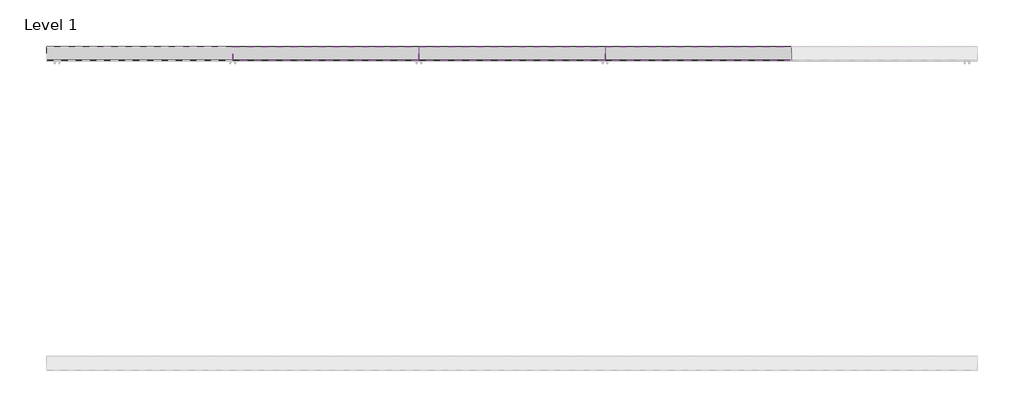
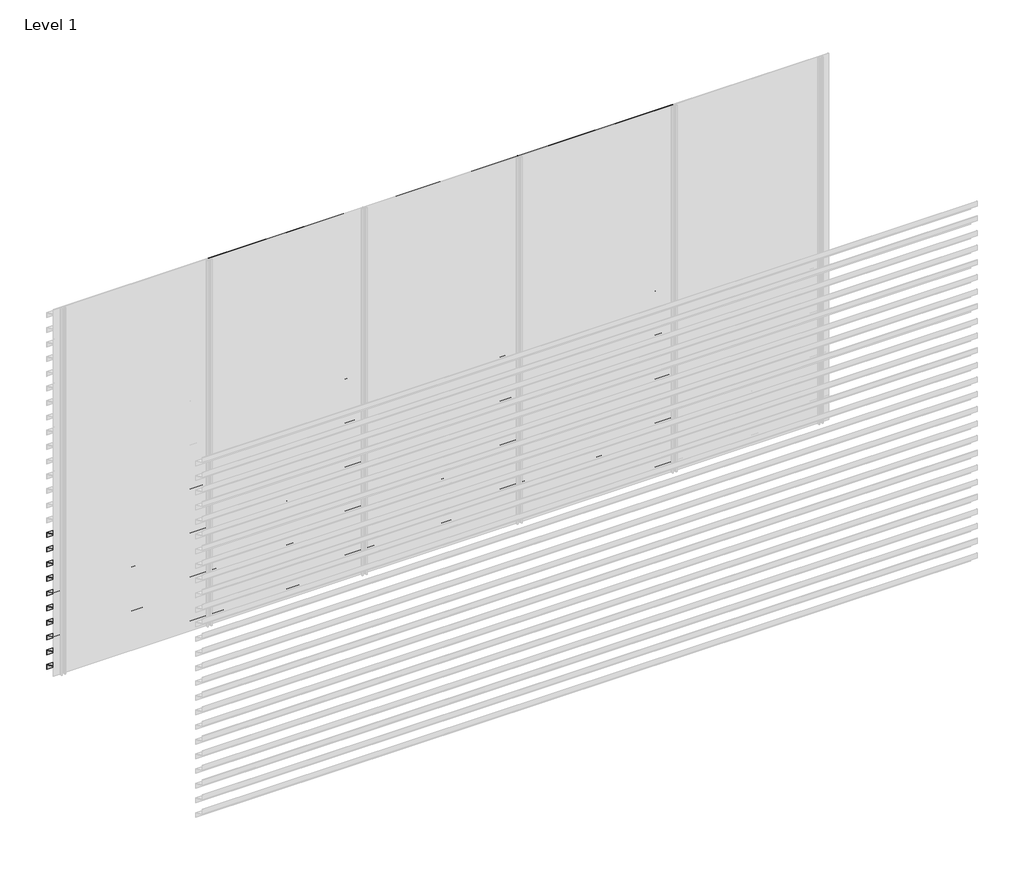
# One storey, part 39 of 46: 85 proxies.
"""IFC4 building model written with IfcOpenShell, lengths in millimetres."""

import ifcopenshell
import ifcopenshell.guid

model = None  # the IFC model being written
_history = None  # IfcOwnerHistory: only IFC2X3 demands one
_inside = {}  # id of a spatial element -> (the spatial element, [elements in it])
_under = {}  # id of a project, library or spatial element -> (it, [spatial elements below it])
_declared = {}  # id of a project -> (the project, [libraries it declares])
_typed = {}  # id of a type object -> (the type object, [elements of that type])
_made_of = {}  # id of a material, layer set ... -> (it, [elements and type objects made of it])


def new_model(schema):
    """Start an empty IFC model of exactly this schema.

    Asked for "IFC4X3", IfcOpenShell would pick the latest addendum, in which some entities
    have other attributes; the version numbers below select the first issue.
    IFC2X3 requires an IfcOwnerHistory on every rooted entity: one is made here for all.
    """
    global model, _history
    if schema == "IFC4X3":
        model = ifcopenshell.file(schema_version=(4, 3, 0, 0))
    else:
        model = ifcopenshell.file(schema=schema)
    _inside.clear()
    _under.clear()
    _declared.clear()
    _typed.clear()
    _made_of.clear()
    _history = None
    if model.schema == "IFC2X3":
        org = make("IfcOrganization", Name="unknown")
        user = make(
            "IfcPersonAndOrganization",
            ThePerson=make("IfcPerson", FamilyName="unknown"),
            TheOrganization=org,
        )
        app = make(
            "IfcApplication",
            ApplicationDeveloper=org,
            Version="unknown",
            ApplicationFullName="unknown",
            ApplicationIdentifier="unknown",
        )
        _history = make(
            "IfcOwnerHistory",
            OwningUser=user,
            OwningApplication=app,
            ChangeAction="ADDED",
            CreationDate=0,
        )
    return model


def make(cls, **values):
    """One entity of the class cls with the attributes given. An attribute that is None is left unset."""
    return model.create_entity(
        cls, **{name: value for name, value in values.items() if value is not None}
    )


def rooted(cls, **values):
    """An entity with a GlobalId (a new one), such as an element, a storey or a relation."""
    return make(cls, GlobalId=ifcopenshell.guid.new(), OwnerHistory=_history, **values)


def si_unit(unit_type, name, prefix=None):
    """IfcSIUnit, for example si_unit("LENGTHUNIT", "METRE", prefix="MILLI")."""
    return make("IfcSIUnit", UnitType=unit_type, Prefix=prefix, Name=name)


def assignment(units):
    """IfcUnitAssignment: the units of a project."""
    return None if units is None else make("IfcUnitAssignment", Units=units)


def point(xyz):
    """IfcCartesianPoint."""
    return None if xyz is None else make("IfcCartesianPoint", Coordinates=xyz)


def direction(xyz):
    """IfcDirection."""
    return None if xyz is None else make("IfcDirection", DirectionRatios=xyz)


def frame(location, z_axis=None, x_axis=None):
    """IfcAxis2Placement3D, a coordinate frame: its origin and axes. An axis left out is left unset."""
    return make(
        "IfcAxis2Placement3D",
        Location=point(location),
        Axis=direction(z_axis),
        RefDirection=direction(x_axis),
    )


def origin():
    """The frame at (0, 0, 0) with its axes left unset."""
    return frame((0.0, 0.0, 0.0))


def place(relative_to, where):
    """IfcLocalPlacement: puts the frame where relative to a parent placement (None: the world)."""
    return make(
        "IfcLocalPlacement", PlacementRelTo=relative_to, RelativePlacement=where
    )


def context(
    kind, dimensions, precision=None, world=None, true_north=None, identifier=None
):
    """IfcGeometricRepresentationContext, for example the 3D "Model" context."""
    return make(
        "IfcGeometricRepresentationContext",
        ContextIdentifier=identifier,
        ContextType=kind,
        CoordinateSpaceDimension=dimensions,
        Precision=precision,
        WorldCoordinateSystem=world,
        TrueNorth=true_north,
    )


def project(units=None, contexts=None):
    """IfcProject with its units and contexts."""
    return rooted(
        "IfcProject",
        Name="project",
        RepresentationContexts=contexts,
        UnitsInContext=assignment(units),
    )


def spatial(cls, under=None, at=None, **own):
    """A site, building, storey or space (cls), placed at a placement, below another one or the project."""
    s = rooted(cls, ObjectPlacement=at, **own)
    if under is not None:
        _under.setdefault(under.id(), (under, []))[1].append(s)
    return s


def polyline(points):
    """IfcPolyline through the points."""
    return make("IfcPolyline", Points=[point(p) for p in points])


def outline(outer, holes=None, kind="AREA"):
    """IfcArbitraryClosedProfileDef: a profile drawn as a closed curve; with holes, ...WithVoids."""
    if holes is None:
        return make("IfcArbitraryClosedProfileDef", ProfileType=kind, OuterCurve=outer)
    return make(
        "IfcArbitraryProfileDefWithVoids",
        ProfileType=kind,
        OuterCurve=outer,
        InnerCurves=holes,
    )


def extrude(swept, where, along, depth):
    """IfcExtrudedAreaSolid: the profile swept, set in the frame where, extruded along a direction by depth."""
    return make(
        "IfcExtrudedAreaSolid",
        SweptArea=swept,
        Position=where,
        ExtrudedDirection=direction(along),
        Depth=depth,
    )


def shape(context_of_items, identifier, shape_type, items):
    """IfcShapeRepresentation: the items that make up one representation, for example the "Body"."""
    return make(
        "IfcShapeRepresentation",
        ContextOfItems=context_of_items,
        RepresentationIdentifier=identifier,
        RepresentationType=shape_type,
        Items=items,
    )


def made_of(thing, what):
    """Note that an element or type object is made of a material, layer set ...; save() writes the relation."""
    if what is not None:
        _made_of.setdefault(what.id(), (what, []))[1].append(thing)
    return thing


def element(
    cls,
    number,
    at=None,
    inside=None,
    cuts=None,
    type_object=None,
    material=None,
    context=None,
    identifier="Body",
    shape_type=None,
    held_by="IfcProductDefinitionShape",
    body=None,
    shapes=None,
    **own,
):
    """One element of the class cls, such as IfcWall. Its Tag is "e" and its number.

    at: its placement. inside: the storey or other place that contains it. cuts: it is an
    opening in that element (IfcRelVoidsElement). A single representation is given by context,
    identifier, shape_type and body (its items); several are given by shapes. held_by: the class
    of the entity that holds the representations. save() writes the other relations.
    """
    e = rooted(cls, Tag="e%d" % number, ObjectPlacement=at, **own)
    if body is not None:
        shapes = [shape(context, identifier, shape_type, body)]
    if shapes is not None:
        e.Representation = make(held_by, Representations=shapes)
    if inside is not None:
        _inside.setdefault(inside.id(), (inside, []))[1].append(e)
    if cuts is not None:
        rooted(
            "IfcRelVoidsElement", RelatingBuildingElement=cuts, RelatedOpeningElement=e
        )
    if type_object is not None:
        _typed.setdefault(type_object.id(), (type_object, []))[1].append(e)
    return made_of(e, material)


def aggregate(whole, parts):
    """IfcRelAggregates: a whole, such as a stair, and the parts it consists of."""
    return rooted("IfcRelAggregates", RelatingObject=whole, RelatedObjects=parts)


def save(model, path):
    """Write the relations noted so far, then the file.

    IfcRelAggregates (storeys below a building ...), IfcRelContainedInSpatialStructure (elements
    in a storey), IfcRelDefinesByType, IfcRelAssociatesMaterial and IfcRelDeclares: one each for
    every whole, place, type object, material and project.
    """
    for whole, parts in _under.values():
        aggregate(whole, parts)
    for where, things in _inside.values():
        rooted(
            "IfcRelContainedInSpatialStructure",
            RelatedElements=things,
            RelatingStructure=where,
        )
    for kind, things in _typed.values():
        rooted("IfcRelDefinesByType", RelatedObjects=things, RelatingType=kind)
    for what, things in _made_of.values():
        rooted("IfcRelAssociatesMaterial", RelatedObjects=things, RelatingMaterial=what)
    for by, libraries in _declared.values():
        rooted("IfcRelDeclares", RelatingContext=by, RelatedDefinitions=libraries)
    model.write(path)


model = new_model("IFC4")

# Units and contexts
model_context = context("Model", 3, world=origin())
ifc_project = project(units=[si_unit("LENGTHUNIT", "METRE", prefix="MILLI")], contexts=[model_context])

# Site, building, storey
site = spatial("IfcSite", under=ifc_project)
building = spatial("IfcBuilding", under=site)
storey = spatial("IfcBuildingStorey", under=building, Name="Level 1", Elevation=0.0)

# Proxies
placement = place(None, origin())
element("IfcBuildingElementProxy", 1, Name="Wall Sweeps", at=placement, inside=storey, context=model_context, shape_type="SweptSolid", body=[
    extrude(outline(polyline([(66573.0540136, 1120.0), (66573.0540136, 1080.0), (66571.0540136, 1081.349017), (66571.0540136, 1118.7258595), (66483.0540136, 1159.7609334), (66483.0540136, 1200.0), (66485.0540136, 1200.0), (66485.0540136, 1161.0350739), (66573.0540136, 1120.0)])), frame((466.6208097, 0.0, 0.0), z_axis=(1.0, 0.0, 0.0), x_axis=(0.0, 1.0, 0.0)), (0.0, 0.0, 1.0), 1200.0000002),
])
element("IfcBuildingElementProxy", 2, Name="Wall Sweeps", at=placement, inside=storey, context=model_context, shape_type="SweptSolid", body=[
    extrude(outline(polyline([(66573.0540136, 1000.0), (66573.0540136, 960.0), (66571.0540136, 961.349017), (66571.0540136, 998.7258595), (66483.0540136, 1039.7609334), (66483.0540136, 1080.0), (66485.0540136, 1080.0), (66485.0540136, 1041.0350739), (66573.0540136, 1000.0)])), frame((466.6208097, 0.0, 0.0), z_axis=(1.0, 0.0, 0.0), x_axis=(0.0, 1.0, 0.0)), (0.0, 0.0, 1.0), 1200.0000002),
])
element("IfcBuildingElementProxy", 3, Name="Wall Sweeps", at=placement, inside=storey, context=model_context, shape_type="SweptSolid", body=[
    extrude(outline(polyline([(66573.0540136, 880.0), (66573.0540136, 840.0), (66571.0540136, 841.349017), (66571.0540136, 878.7258595), (66483.0540136, 919.7609334), (66483.0540136, 960.0), (66485.0540136, 960.0), (66485.0540136, 921.0350739), (66573.0540136, 880.0)])), frame((466.6208097, 0.0, 0.0), z_axis=(1.0, 0.0, 0.0), x_axis=(0.0, 1.0, 0.0)), (0.0, 0.0, 1.0), 1200.0000002),
])
element("IfcBuildingElementProxy", 4, Name="Wall Sweeps", at=placement, inside=storey, context=model_context, shape_type="SweptSolid", body=[
    extrude(outline(polyline([(66573.0540136, 760.0), (66573.0540136, 720.0), (66571.0540136, 721.349017), (66571.0540136, 758.7258595), (66483.0540136, 799.7609334), (66483.0540136, 840.0), (66485.0540136, 840.0), (66485.0540136, 801.0350739), (66573.0540136, 760.0)])), frame((466.6208097, 0.0, 0.0), z_axis=(1.0, 0.0, 0.0), x_axis=(0.0, 1.0, 0.0)), (0.0, 0.0, 1.0), 1200.0000002),
])
element("IfcBuildingElementProxy", 5, Name="Wall Sweeps", at=placement, inside=storey, context=model_context, shape_type="SweptSolid", body=[
    extrude(outline(polyline([(66573.0540136, 640.0), (66573.0540136, 600.0), (66571.0540136, 601.349017), (66571.0540136, 638.7258595), (66483.0540136, 679.7609334), (66483.0540136, 720.0), (66485.0540136, 720.0), (66485.0540136, 681.0350739), (66573.0540136, 640.0)])), frame((466.6208097, 0.0, 0.0), z_axis=(1.0, 0.0, 0.0), x_axis=(0.0, 1.0, 0.0)), (0.0, 0.0, 1.0), 1200.0000002),
])
element("IfcBuildingElementProxy", 6, Name="Wall Sweeps", at=placement, inside=storey, context=model_context, shape_type="SweptSolid", body=[
    extrude(outline(polyline([(66573.0540136, 520.0), (66573.0540136, 480.0), (66571.0540136, 481.349017), (66571.0540136, 518.7258595), (66483.0540136, 559.7609334), (66483.0540136, 600.0), (66485.0540136, 600.0), (66485.0540136, 561.0350739), (66573.0540136, 520.0)])), frame((466.6208097, 0.0, 0.0), z_axis=(1.0, 0.0, 0.0), x_axis=(0.0, 1.0, 0.0)), (0.0, 0.0, 1.0), 1200.0000002),
])
element("IfcBuildingElementProxy", 7, Name="Wall Sweeps", at=placement, inside=storey, context=model_context, shape_type="SweptSolid", body=[
    extrude(outline(polyline([(66573.0540136, 400.0), (66573.0540136, 360.0), (66571.0540136, 361.349017), (66571.0540136, 398.7258595), (66483.0540136, 439.7609334), (66483.0540136, 480.0), (66485.0540136, 480.0), (66485.0540136, 441.0350739), (66573.0540136, 400.0)])), frame((466.6208097, 0.0, 0.0), z_axis=(1.0, 0.0, 0.0), x_axis=(0.0, 1.0, 0.0)), (0.0, 0.0, 1.0), 1200.0000002),
])
element("IfcBuildingElementProxy", 8, Name="Wall Sweeps", at=placement, inside=storey, context=model_context, shape_type="SweptSolid", body=[
    extrude(outline(polyline([(66573.0540136, 280.0), (66573.0540136, 240.0), (66571.0540136, 241.349017), (66571.0540136, 278.7258595), (66483.0540136, 319.7609334), (66483.0540136, 360.0), (66485.0540136, 360.0), (66485.0540136, 321.0350739), (66573.0540136, 280.0)])), frame((466.6208097, 0.0, 0.0), z_axis=(1.0, 0.0, 0.0), x_axis=(0.0, 1.0, 0.0)), (0.0, 0.0, 1.0), 1200.0000002),
])
element("IfcBuildingElementProxy", 9, Name="Wall Sweeps", at=placement, inside=storey, context=model_context, shape_type="SweptSolid", body=[
    extrude(outline(polyline([(66573.0540136, 160.0), (66573.0540136, 120.0), (66571.0540136, 121.349017), (66571.0540136, 158.7258595), (66483.0540136, 199.7609334), (66483.0540136, 240.0), (66485.0540136, 240.0), (66485.0540136, 201.0350739), (66573.0540136, 160.0)])), frame((466.6208097, 0.0, 0.0), z_axis=(1.0, 0.0, 0.0), x_axis=(0.0, 1.0, 0.0)), (0.0, 0.0, 1.0), 1200.0000002),
])
element("IfcBuildingElementProxy", 10, Name="Wall Sweeps", at=placement, inside=storey, context=model_context, shape_type="SweptSolid", body=[
    extrude(outline(polyline([(66573.0540136, 40.0), (66573.0540136, 0.0), (66571.0540136, 1.349017), (66571.0540136, 38.7258595), (66483.0540136, 79.7609334), (66483.0540136, 120.0), (66485.0540136, 120.0), (66485.0540136, 81.0350739), (66573.0540136, 40.0)])), frame((466.6208097, 0.0, 0.0), z_axis=(1.0, 0.0, 0.0), x_axis=(0.0, 1.0, 0.0)), (0.0, 0.0, 1.0), 1200.0000002),
])
element("IfcBuildingElementProxy", 11, Name="Wall Sweeps", at=placement, inside=storey, context=model_context, shape_type="SweptSolid", body=[
    extrude(outline(polyline([(66573.0540136, 2920.0), (66573.0540136, 2880.0), (66571.0540136, 2881.349017), (66571.0540136, 2918.7258595), (66483.0540136, 2959.7609334), (66483.0540136, 3000.0), (66485.0540136, 3000.0), (66485.0540136, 2961.0350739), (66573.0540136, 2920.0)])), frame((1666.6208099, 0.0, 0.0), z_axis=(1.0, 0.0, 0.0), x_axis=(0.0, 1.0, 0.0)), (0.0, 0.0, 1.0), 1199.9999999),
])
element("IfcBuildingElementProxy", 12, Name="Wall Sweeps", at=placement, inside=storey, context=model_context, shape_type="SweptSolid", body=[
    extrude(outline(polyline([(66573.0540136, 2800.0), (66573.0540136, 2760.0), (66571.0540136, 2761.349017), (66571.0540136, 2798.7258595), (66483.0540136, 2839.7609334), (66483.0540136, 2880.0), (66485.0540136, 2880.0), (66485.0540136, 2841.0350739), (66573.0540136, 2800.0)])), frame((1666.6208099, 0.0, 0.0), z_axis=(1.0, 0.0, 0.0), x_axis=(0.0, 1.0, 0.0)), (0.0, 0.0, 1.0), 1199.9999999),
])
element("IfcBuildingElementProxy", 13, Name="Wall Sweeps", at=placement, inside=storey, context=model_context, shape_type="SweptSolid", body=[
    extrude(outline(polyline([(66573.0540136, 2680.0), (66573.0540136, 2640.0), (66571.0540136, 2641.349017), (66571.0540136, 2678.7258595), (66483.0540136, 2719.7609334), (66483.0540136, 2760.0), (66485.0540136, 2760.0), (66485.0540136, 2721.0350739), (66573.0540136, 2680.0)])), frame((1666.6208099, 0.0, 0.0), z_axis=(1.0, 0.0, 0.0), x_axis=(0.0, 1.0, 0.0)), (0.0, 0.0, 1.0), 1199.9999999),
])
element("IfcBuildingElementProxy", 14, Name="Wall Sweeps", at=placement, inside=storey, context=model_context, shape_type="SweptSolid", body=[
    extrude(outline(polyline([(66573.0540136, 2560.0), (66573.0540136, 2520.0), (66571.0540136, 2521.349017), (66571.0540136, 2558.7258595), (66483.0540136, 2599.7609334), (66483.0540136, 2640.0), (66485.0540136, 2640.0), (66485.0540136, 2601.0350739), (66573.0540136, 2560.0)])), frame((1666.6208099, 0.0, 0.0), z_axis=(1.0, 0.0, 0.0), x_axis=(0.0, 1.0, 0.0)), (0.0, 0.0, 1.0), 1199.9999999),
])
element("IfcBuildingElementProxy", 15, Name="Wall Sweeps", at=placement, inside=storey, context=model_context, shape_type="SweptSolid", body=[
    extrude(outline(polyline([(66573.0540136, 2440.0), (66573.0540136, 2400.0), (66571.0540136, 2401.349017), (66571.0540136, 2438.7258595), (66483.0540136, 2479.7609334), (66483.0540136, 2520.0), (66485.0540136, 2520.0), (66485.0540136, 2481.0350739), (66573.0540136, 2440.0)])), frame((1666.6208099, 0.0, 0.0), z_axis=(1.0, 0.0, 0.0), x_axis=(0.0, 1.0, 0.0)), (0.0, 0.0, 1.0), 1199.9999999),
])
element("IfcBuildingElementProxy", 16, Name="Wall Sweeps", at=placement, inside=storey, context=model_context, shape_type="SweptSolid", body=[
    extrude(outline(polyline([(66573.0540136, 2320.0), (66573.0540136, 2280.0), (66571.0540136, 2281.349017), (66571.0540136, 2318.7258595), (66483.0540136, 2359.7609334), (66483.0540136, 2400.0), (66485.0540136, 2400.0), (66485.0540136, 2361.0350739), (66573.0540136, 2320.0)])), frame((1666.6208099, 0.0, 0.0), z_axis=(1.0, 0.0, 0.0), x_axis=(0.0, 1.0, 0.0)), (0.0, 0.0, 1.0), 1199.9999999),
])
element("IfcBuildingElementProxy", 17, Name="Wall Sweeps", at=placement, inside=storey, context=model_context, shape_type="SweptSolid", body=[
    extrude(outline(polyline([(66573.0540136, 2200.0), (66573.0540136, 2160.0), (66571.0540136, 2161.349017), (66571.0540136, 2198.7258595), (66483.0540136, 2239.7609334), (66483.0540136, 2280.0), (66485.0540136, 2280.0), (66485.0540136, 2241.0350739), (66573.0540136, 2200.0)])), frame((1666.6208099, 0.0, 0.0), z_axis=(1.0, 0.0, 0.0), x_axis=(0.0, 1.0, 0.0)), (0.0, 0.0, 1.0), 1199.9999999),
])
element("IfcBuildingElementProxy", 18, Name="Wall Sweeps", at=placement, inside=storey, context=model_context, shape_type="SweptSolid", body=[
    extrude(outline(polyline([(66573.0540136, 2080.0), (66573.0540136, 2040.0), (66571.0540136, 2041.349017), (66571.0540136, 2078.7258595), (66483.0540136, 2119.7609334), (66483.0540136, 2160.0), (66485.0540136, 2160.0), (66485.0540136, 2121.0350739), (66573.0540136, 2080.0)])), frame((1666.6208099, 0.0, 0.0), z_axis=(1.0, 0.0, 0.0), x_axis=(0.0, 1.0, 0.0)), (0.0, 0.0, 1.0), 1199.9999999),
])
element("IfcBuildingElementProxy", 19, Name="Wall Sweeps", at=placement, inside=storey, context=model_context, shape_type="SweptSolid", body=[
    extrude(outline(polyline([(66573.0540136, 1960.0), (66573.0540136, 1920.0), (66571.0540136, 1921.349017), (66571.0540136, 1958.7258595), (66483.0540136, 1999.7609334), (66483.0540136, 2040.0), (66485.0540136, 2040.0), (66485.0540136, 2001.0350739), (66573.0540136, 1960.0)])), frame((1666.6208099, 0.0, 0.0), z_axis=(1.0, 0.0, 0.0), x_axis=(0.0, 1.0, 0.0)), (0.0, 0.0, 1.0), 1199.9999999),
])
element("IfcBuildingElementProxy", 20, Name="Wall Sweeps", at=placement, inside=storey, context=model_context, shape_type="SweptSolid", body=[
    extrude(outline(polyline([(66573.0540136, 1840.0), (66573.0540136, 1800.0), (66571.0540136, 1801.349017), (66571.0540136, 1838.7258595), (66483.0540136, 1879.7609334), (66483.0540136, 1920.0), (66485.0540136, 1920.0), (66485.0540136, 1881.0350739), (66573.0540136, 1840.0)])), frame((1666.6208099, 0.0, 0.0), z_axis=(1.0, 0.0, 0.0), x_axis=(0.0, 1.0, 0.0)), (0.0, 0.0, 1.0), 1199.9999999),
])
element("IfcBuildingElementProxy", 21, Name="Wall Sweeps", at=placement, inside=storey, context=model_context, shape_type="SweptSolid", body=[
    extrude(outline(polyline([(66573.0540136, 1720.0), (66573.0540136, 1680.0), (66571.0540136, 1681.349017), (66571.0540136, 1718.7258595), (66483.0540136, 1759.7609334), (66483.0540136, 1800.0), (66485.0540136, 1800.0), (66485.0540136, 1761.0350739), (66573.0540136, 1720.0)])), frame((1666.6208099, 0.0, 0.0), z_axis=(1.0, 0.0, 0.0), x_axis=(0.0, 1.0, 0.0)), (0.0, 0.0, 1.0), 1199.9999999),
])
element("IfcBuildingElementProxy", 22, Name="Wall Sweeps", at=placement, inside=storey, context=model_context, shape_type="SweptSolid", body=[
    extrude(outline(polyline([(66573.0540136, 1600.0), (66573.0540136, 1560.0), (66571.0540136, 1561.349017), (66571.0540136, 1598.7258595), (66483.0540136, 1639.7609334), (66483.0540136, 1680.0), (66485.0540136, 1680.0), (66485.0540136, 1641.0350739), (66573.0540136, 1600.0)])), frame((1666.6208099, 0.0, 0.0), z_axis=(1.0, 0.0, 0.0), x_axis=(0.0, 1.0, 0.0)), (0.0, 0.0, 1.0), 1199.9999999),
])
element("IfcBuildingElementProxy", 23, Name="Wall Sweeps", at=placement, inside=storey, context=model_context, shape_type="SweptSolid", body=[
    extrude(outline(polyline([(66573.0540136, 1480.0), (66573.0540136, 1440.0), (66571.0540136, 1441.349017), (66571.0540136, 1478.7258595), (66483.0540136, 1519.7609334), (66483.0540136, 1560.0), (66485.0540136, 1560.0), (66485.0540136, 1521.0350739), (66573.0540136, 1480.0)])), frame((1666.6208099, 0.0, 0.0), z_axis=(1.0, 0.0, 0.0), x_axis=(0.0, 1.0, 0.0)), (0.0, 0.0, 1.0), 1199.9999999),
])
element("IfcBuildingElementProxy", 24, Name="Wall Sweeps", at=placement, inside=storey, context=model_context, shape_type="SweptSolid", body=[
    extrude(outline(polyline([(66573.0540136, 1360.0), (66573.0540136, 1320.0), (66571.0540136, 1321.349017), (66571.0540136, 1358.7258595), (66483.0540136, 1399.7609334), (66483.0540136, 1440.0), (66485.0540136, 1440.0), (66485.0540136, 1401.0350739), (66573.0540136, 1360.0)])), frame((1666.6208099, 0.0, 0.0), z_axis=(1.0, 0.0, 0.0), x_axis=(0.0, 1.0, 0.0)), (0.0, 0.0, 1.0), 1199.9999999),
])
element("IfcBuildingElementProxy", 25, Name="Wall Sweeps", at=placement, inside=storey, context=model_context, shape_type="SweptSolid", body=[
    extrude(outline(polyline([(66573.0540136, 1240.0), (66573.0540136, 1200.0), (66571.0540136, 1201.349017), (66571.0540136, 1238.7258595), (66483.0540136, 1279.7609334), (66483.0540136, 1320.0), (66485.0540136, 1320.0), (66485.0540136, 1281.0350739), (66573.0540136, 1240.0)])), frame((1666.6208099, 0.0, 0.0), z_axis=(1.0, 0.0, 0.0), x_axis=(0.0, 1.0, 0.0)), (0.0, 0.0, 1.0), 1199.9999999),
])
element("IfcBuildingElementProxy", 26, Name="Wall Sweeps", at=placement, inside=storey, context=model_context, shape_type="SweptSolid", body=[
    extrude(outline(polyline([(66573.0540136, 1120.0), (66573.0540136, 1080.0), (66571.0540136, 1081.349017), (66571.0540136, 1118.7258595), (66483.0540136, 1159.7609334), (66483.0540136, 1200.0), (66485.0540136, 1200.0), (66485.0540136, 1161.0350739), (66573.0540136, 1120.0)])), frame((1666.6208099, 0.0, 0.0), z_axis=(1.0, 0.0, 0.0), x_axis=(0.0, 1.0, 0.0)), (0.0, 0.0, 1.0), 1199.9999999),
])
element("IfcBuildingElementProxy", 27, Name="Wall Sweeps", at=placement, inside=storey, context=model_context, shape_type="SweptSolid", body=[
    extrude(outline(polyline([(66573.0540136, 1000.0), (66573.0540136, 960.0), (66571.0540136, 961.349017), (66571.0540136, 998.7258595), (66483.0540136, 1039.7609334), (66483.0540136, 1080.0), (66485.0540136, 1080.0), (66485.0540136, 1041.0350739), (66573.0540136, 1000.0)])), frame((1666.6208099, 0.0, 0.0), z_axis=(1.0, 0.0, 0.0), x_axis=(0.0, 1.0, 0.0)), (0.0, 0.0, 1.0), 1199.9999999),
])
element("IfcBuildingElementProxy", 28, Name="Wall Sweeps", at=placement, inside=storey, context=model_context, shape_type="SweptSolid", body=[
    extrude(outline(polyline([(66573.0540136, 880.0), (66573.0540136, 840.0), (66571.0540136, 841.349017), (66571.0540136, 878.7258595), (66483.0540136, 919.7609334), (66483.0540136, 960.0), (66485.0540136, 960.0), (66485.0540136, 921.0350739), (66573.0540136, 880.0)])), frame((1666.6208099, 0.0, 0.0), z_axis=(1.0, 0.0, 0.0), x_axis=(0.0, 1.0, 0.0)), (0.0, 0.0, 1.0), 1199.9999999),
])
element("IfcBuildingElementProxy", 29, Name="Wall Sweeps", at=placement, inside=storey, context=model_context, shape_type="SweptSolid", body=[
    extrude(outline(polyline([(66573.0540136, 760.0), (66573.0540136, 720.0), (66571.0540136, 721.349017), (66571.0540136, 758.7258595), (66483.0540136, 799.7609334), (66483.0540136, 840.0), (66485.0540136, 840.0), (66485.0540136, 801.0350739), (66573.0540136, 760.0)])), frame((1666.6208099, 0.0, 0.0), z_axis=(1.0, 0.0, 0.0), x_axis=(0.0, 1.0, 0.0)), (0.0, 0.0, 1.0), 1199.9999999),
])
element("IfcBuildingElementProxy", 30, Name="Wall Sweeps", at=placement, inside=storey, context=model_context, shape_type="SweptSolid", body=[
    extrude(outline(polyline([(66573.0540136, 640.0), (66573.0540136, 600.0), (66571.0540136, 601.349017), (66571.0540136, 638.7258595), (66483.0540136, 679.7609334), (66483.0540136, 720.0), (66485.0540136, 720.0), (66485.0540136, 681.0350739), (66573.0540136, 640.0)])), frame((1666.6208099, 0.0, 0.0), z_axis=(1.0, 0.0, 0.0), x_axis=(0.0, 1.0, 0.0)), (0.0, 0.0, 1.0), 1199.9999999),
])
element("IfcBuildingElementProxy", 31, Name="Wall Sweeps", at=placement, inside=storey, context=model_context, shape_type="SweptSolid", body=[
    extrude(outline(polyline([(66573.0540136, 520.0), (66573.0540136, 480.0), (66571.0540136, 481.349017), (66571.0540136, 518.7258595), (66483.0540136, 559.7609334), (66483.0540136, 600.0), (66485.0540136, 600.0), (66485.0540136, 561.0350739), (66573.0540136, 520.0)])), frame((1666.6208099, 0.0, 0.0), z_axis=(1.0, 0.0, 0.0), x_axis=(0.0, 1.0, 0.0)), (0.0, 0.0, 1.0), 1199.9999999),
])
element("IfcBuildingElementProxy", 32, Name="Wall Sweeps", at=placement, inside=storey, context=model_context, shape_type="SweptSolid", body=[
    extrude(outline(polyline([(66573.0540136, 400.0), (66573.0540136, 360.0), (66571.0540136, 361.349017), (66571.0540136, 398.7258595), (66483.0540136, 439.7609334), (66483.0540136, 480.0), (66485.0540136, 480.0), (66485.0540136, 441.0350739), (66573.0540136, 400.0)])), frame((1666.6208099, 0.0, 0.0), z_axis=(1.0, 0.0, 0.0), x_axis=(0.0, 1.0, 0.0)), (0.0, 0.0, 1.0), 1199.9999999),
])
element("IfcBuildingElementProxy", 33, Name="Wall Sweeps", at=placement, inside=storey, context=model_context, shape_type="SweptSolid", body=[
    extrude(outline(polyline([(66573.0540136, 280.0), (66573.0540136, 240.0), (66571.0540136, 241.349017), (66571.0540136, 278.7258595), (66483.0540136, 319.7609334), (66483.0540136, 360.0), (66485.0540136, 360.0), (66485.0540136, 321.0350739), (66573.0540136, 280.0)])), frame((1666.6208099, 0.0, 0.0), z_axis=(1.0, 0.0, 0.0), x_axis=(0.0, 1.0, 0.0)), (0.0, 0.0, 1.0), 1199.9999999),
])
element("IfcBuildingElementProxy", 34, Name="Wall Sweeps", at=placement, inside=storey, context=model_context, shape_type="SweptSolid", body=[
    extrude(outline(polyline([(66573.0540136, 160.0), (66573.0540136, 120.0), (66571.0540136, 121.349017), (66571.0540136, 158.7258595), (66483.0540136, 199.7609334), (66483.0540136, 240.0), (66485.0540136, 240.0), (66485.0540136, 201.0350739), (66573.0540136, 160.0)])), frame((1666.6208099, 0.0, 0.0), z_axis=(1.0, 0.0, 0.0), x_axis=(0.0, 1.0, 0.0)), (0.0, 0.0, 1.0), 1199.9999999),
])
element("IfcBuildingElementProxy", 35, Name="Wall Sweeps", at=placement, inside=storey, context=model_context, shape_type="SweptSolid", body=[
    extrude(outline(polyline([(66573.0540136, 40.0), (66573.0540136, 0.0), (66571.0540136, 1.349017), (66571.0540136, 38.7258595), (66483.0540136, 79.7609334), (66483.0540136, 120.0), (66485.0540136, 120.0), (66485.0540136, 81.0350739), (66573.0540136, 40.0)])), frame((1666.6208099, 0.0, 0.0), z_axis=(1.0, 0.0, 0.0), x_axis=(0.0, 1.0, 0.0)), (0.0, 0.0, 1.0), 1199.9999999),
])
element("IfcBuildingElementProxy", 36, Name="Wall Sweeps", at=placement, inside=storey, context=model_context, shape_type="SweptSolid", body=[
    extrude(outline(polyline([(66573.0540136, 2920.0), (66573.0540136, 2880.0), (66571.0540136, 2881.349017), (66571.0540136, 2918.7258595), (66483.0540136, 2959.7609334), (66483.0540136, 3000.0), (66485.0540136, 3000.0), (66485.0540136, 2961.0350739), (66573.0540136, 2920.0)])), frame((2866.6208097, 0.0, 0.0), z_axis=(1.0, 0.0, 0.0), x_axis=(0.0, 1.0, 0.0)), (0.0, 0.0, 1.0), 1199.9999999),
])
element("IfcBuildingElementProxy", 37, Name="Wall Sweeps", at=placement, inside=storey, context=model_context, shape_type="SweptSolid", body=[
    extrude(outline(polyline([(66573.0540136, 2800.0), (66573.0540136, 2760.0), (66571.0540136, 2761.349017), (66571.0540136, 2798.7258595), (66483.0540136, 2839.7609334), (66483.0540136, 2880.0), (66485.0540136, 2880.0), (66485.0540136, 2841.0350739), (66573.0540136, 2800.0)])), frame((2866.6208097, 0.0, 0.0), z_axis=(1.0, 0.0, 0.0), x_axis=(0.0, 1.0, 0.0)), (0.0, 0.0, 1.0), 1199.9999999),
])
element("IfcBuildingElementProxy", 38, Name="Wall Sweeps", at=placement, inside=storey, context=model_context, shape_type="SweptSolid", body=[
    extrude(outline(polyline([(66573.0540136, 2680.0), (66573.0540136, 2640.0), (66571.0540136, 2641.349017), (66571.0540136, 2678.7258595), (66483.0540136, 2719.7609334), (66483.0540136, 2760.0), (66485.0540136, 2760.0), (66485.0540136, 2721.0350739), (66573.0540136, 2680.0)])), frame((2866.6208097, 0.0, 0.0), z_axis=(1.0, 0.0, 0.0), x_axis=(0.0, 1.0, 0.0)), (0.0, 0.0, 1.0), 1199.9999999),
])
element("IfcBuildingElementProxy", 39, Name="Wall Sweeps", at=placement, inside=storey, context=model_context, shape_type="SweptSolid", body=[
    extrude(outline(polyline([(66573.0540136, 2560.0), (66573.0540136, 2520.0), (66571.0540136, 2521.349017), (66571.0540136, 2558.7258595), (66483.0540136, 2599.7609334), (66483.0540136, 2640.0), (66485.0540136, 2640.0), (66485.0540136, 2601.0350739), (66573.0540136, 2560.0)])), frame((2866.6208097, 0.0, 0.0), z_axis=(1.0, 0.0, 0.0), x_axis=(0.0, 1.0, 0.0)), (0.0, 0.0, 1.0), 1199.9999999),
])
element("IfcBuildingElementProxy", 40, Name="Wall Sweeps", at=placement, inside=storey, context=model_context, shape_type="SweptSolid", body=[
    extrude(outline(polyline([(66573.0540136, 2440.0), (66573.0540136, 2400.0), (66571.0540136, 2401.349017), (66571.0540136, 2438.7258595), (66483.0540136, 2479.7609334), (66483.0540136, 2520.0), (66485.0540136, 2520.0), (66485.0540136, 2481.0350739), (66573.0540136, 2440.0)])), frame((2866.6208097, 0.0, 0.0), z_axis=(1.0, 0.0, 0.0), x_axis=(0.0, 1.0, 0.0)), (0.0, 0.0, 1.0), 1199.9999999),
])
element("IfcBuildingElementProxy", 41, Name="Wall Sweeps", at=placement, inside=storey, context=model_context, shape_type="SweptSolid", body=[
    extrude(outline(polyline([(66573.0540136, 2320.0), (66573.0540136, 2280.0), (66571.0540136, 2281.349017), (66571.0540136, 2318.7258595), (66483.0540136, 2359.7609334), (66483.0540136, 2400.0), (66485.0540136, 2400.0), (66485.0540136, 2361.0350739), (66573.0540136, 2320.0)])), frame((2866.6208097, 0.0, 0.0), z_axis=(1.0, 0.0, 0.0), x_axis=(0.0, 1.0, 0.0)), (0.0, 0.0, 1.0), 1199.9999999),
])
element("IfcBuildingElementProxy", 42, Name="Wall Sweeps", at=placement, inside=storey, context=model_context, shape_type="SweptSolid", body=[
    extrude(outline(polyline([(66573.0540136, 2200.0), (66573.0540136, 2160.0), (66571.0540136, 2161.349017), (66571.0540136, 2198.7258595), (66483.0540136, 2239.7609334), (66483.0540136, 2280.0), (66485.0540136, 2280.0), (66485.0540136, 2241.0350739), (66573.0540136, 2200.0)])), frame((2866.6208097, 0.0, 0.0), z_axis=(1.0, 0.0, 0.0), x_axis=(0.0, 1.0, 0.0)), (0.0, 0.0, 1.0), 1199.9999999),
])
element("IfcBuildingElementProxy", 43, Name="Wall Sweeps", at=placement, inside=storey, context=model_context, shape_type="SweptSolid", body=[
    extrude(outline(polyline([(66573.0540136, 2080.0), (66573.0540136, 2040.0), (66571.0540136, 2041.349017), (66571.0540136, 2078.7258595), (66483.0540136, 2119.7609334), (66483.0540136, 2160.0), (66485.0540136, 2160.0), (66485.0540136, 2121.0350739), (66573.0540136, 2080.0)])), frame((2866.6208097, 0.0, 0.0), z_axis=(1.0, 0.0, 0.0), x_axis=(0.0, 1.0, 0.0)), (0.0, 0.0, 1.0), 1199.9999999),
])
element("IfcBuildingElementProxy", 44, Name="Wall Sweeps", at=placement, inside=storey, context=model_context, shape_type="SweptSolid", body=[
    extrude(outline(polyline([(66573.0540136, 1960.0), (66573.0540136, 1920.0), (66571.0540136, 1921.349017), (66571.0540136, 1958.7258595), (66483.0540136, 1999.7609334), (66483.0540136, 2040.0), (66485.0540136, 2040.0), (66485.0540136, 2001.0350739), (66573.0540136, 1960.0)])), frame((2866.6208097, 0.0, 0.0), z_axis=(1.0, 0.0, 0.0), x_axis=(0.0, 1.0, 0.0)), (0.0, 0.0, 1.0), 1199.9999999),
])
element("IfcBuildingElementProxy", 45, Name="Wall Sweeps", at=placement, inside=storey, context=model_context, shape_type="SweptSolid", body=[
    extrude(outline(polyline([(66573.0540136, 1840.0), (66573.0540136, 1800.0), (66571.0540136, 1801.349017), (66571.0540136, 1838.7258595), (66483.0540136, 1879.7609334), (66483.0540136, 1920.0), (66485.0540136, 1920.0), (66485.0540136, 1881.0350739), (66573.0540136, 1840.0)])), frame((2866.6208097, 0.0, 0.0), z_axis=(1.0, 0.0, 0.0), x_axis=(0.0, 1.0, 0.0)), (0.0, 0.0, 1.0), 1199.9999999),
])
element("IfcBuildingElementProxy", 46, Name="Wall Sweeps", at=placement, inside=storey, context=model_context, shape_type="SweptSolid", body=[
    extrude(outline(polyline([(66573.0540136, 1720.0), (66573.0540136, 1680.0), (66571.0540136, 1681.349017), (66571.0540136, 1718.7258595), (66483.0540136, 1759.7609334), (66483.0540136, 1800.0), (66485.0540136, 1800.0), (66485.0540136, 1761.0350739), (66573.0540136, 1720.0)])), frame((2866.6208097, 0.0, 0.0), z_axis=(1.0, 0.0, 0.0), x_axis=(0.0, 1.0, 0.0)), (0.0, 0.0, 1.0), 1199.9999999),
])
element("IfcBuildingElementProxy", 47, Name="Wall Sweeps", at=placement, inside=storey, context=model_context, shape_type="SweptSolid", body=[
    extrude(outline(polyline([(66573.0540136, 1600.0), (66573.0540136, 1560.0), (66571.0540136, 1561.349017), (66571.0540136, 1598.7258595), (66483.0540136, 1639.7609334), (66483.0540136, 1680.0), (66485.0540136, 1680.0), (66485.0540136, 1641.0350739), (66573.0540136, 1600.0)])), frame((2866.6208097, 0.0, 0.0), z_axis=(1.0, 0.0, 0.0), x_axis=(0.0, 1.0, 0.0)), (0.0, 0.0, 1.0), 1199.9999999),
])
element("IfcBuildingElementProxy", 48, Name="Wall Sweeps", at=placement, inside=storey, context=model_context, shape_type="SweptSolid", body=[
    extrude(outline(polyline([(66573.0540136, 1480.0), (66573.0540136, 1440.0), (66571.0540136, 1441.349017), (66571.0540136, 1478.7258595), (66483.0540136, 1519.7609334), (66483.0540136, 1560.0), (66485.0540136, 1560.0), (66485.0540136, 1521.0350739), (66573.0540136, 1480.0)])), frame((2866.6208097, 0.0, 0.0), z_axis=(1.0, 0.0, 0.0), x_axis=(0.0, 1.0, 0.0)), (0.0, 0.0, 1.0), 1199.9999999),
])
element("IfcBuildingElementProxy", 49, Name="Wall Sweeps", at=placement, inside=storey, context=model_context, shape_type="SweptSolid", body=[
    extrude(outline(polyline([(66573.0540136, 1360.0), (66573.0540136, 1320.0), (66571.0540136, 1321.349017), (66571.0540136, 1358.7258595), (66483.0540136, 1399.7609334), (66483.0540136, 1440.0), (66485.0540136, 1440.0), (66485.0540136, 1401.0350739), (66573.0540136, 1360.0)])), frame((2866.6208097, 0.0, 0.0), z_axis=(1.0, 0.0, 0.0), x_axis=(0.0, 1.0, 0.0)), (0.0, 0.0, 1.0), 1199.9999999),
])
element("IfcBuildingElementProxy", 50, Name="Wall Sweeps", at=placement, inside=storey, context=model_context, shape_type="SweptSolid", body=[
    extrude(outline(polyline([(66573.0540136, 1240.0), (66573.0540136, 1200.0), (66571.0540136, 1201.349017), (66571.0540136, 1238.7258595), (66483.0540136, 1279.7609334), (66483.0540136, 1320.0), (66485.0540136, 1320.0), (66485.0540136, 1281.0350739), (66573.0540136, 1240.0)])), frame((2866.6208097, 0.0, 0.0), z_axis=(1.0, 0.0, 0.0), x_axis=(0.0, 1.0, 0.0)), (0.0, 0.0, 1.0), 1199.9999999),
])
element("IfcBuildingElementProxy", 51, Name="Wall Sweeps", at=placement, inside=storey, context=model_context, shape_type="SweptSolid", body=[
    extrude(outline(polyline([(66573.0540136, 1120.0), (66573.0540136, 1080.0), (66571.0540136, 1081.349017), (66571.0540136, 1118.7258595), (66483.0540136, 1159.7609334), (66483.0540136, 1200.0), (66485.0540136, 1200.0), (66485.0540136, 1161.0350739), (66573.0540136, 1120.0)])), frame((2866.6208097, 0.0, 0.0), z_axis=(1.0, 0.0, 0.0), x_axis=(0.0, 1.0, 0.0)), (0.0, 0.0, 1.0), 1199.9999999),
])
element("IfcBuildingElementProxy", 52, Name="Wall Sweeps", at=placement, inside=storey, context=model_context, shape_type="SweptSolid", body=[
    extrude(outline(polyline([(66573.0540136, 1000.0), (66573.0540136, 960.0), (66571.0540136, 961.349017), (66571.0540136, 998.7258595), (66483.0540136, 1039.7609334), (66483.0540136, 1080.0), (66485.0540136, 1080.0), (66485.0540136, 1041.0350739), (66573.0540136, 1000.0)])), frame((2866.6208097, 0.0, 0.0), z_axis=(1.0, 0.0, 0.0), x_axis=(0.0, 1.0, 0.0)), (0.0, 0.0, 1.0), 1199.9999999),
])
element("IfcBuildingElementProxy", 53, Name="Wall Sweeps", at=placement, inside=storey, context=model_context, shape_type="SweptSolid", body=[
    extrude(outline(polyline([(66573.0540136, 880.0), (66573.0540136, 840.0), (66571.0540136, 841.349017), (66571.0540136, 878.7258595), (66483.0540136, 919.7609334), (66483.0540136, 960.0), (66485.0540136, 960.0), (66485.0540136, 921.0350739), (66573.0540136, 880.0)])), frame((2866.6208097, 0.0, 0.0), z_axis=(1.0, 0.0, 0.0), x_axis=(0.0, 1.0, 0.0)), (0.0, 0.0, 1.0), 1199.9999999),
])
element("IfcBuildingElementProxy", 54, Name="Wall Sweeps", at=placement, inside=storey, context=model_context, shape_type="SweptSolid", body=[
    extrude(outline(polyline([(66573.0540136, 760.0), (66573.0540136, 720.0), (66571.0540136, 721.349017), (66571.0540136, 758.7258595), (66483.0540136, 799.7609334), (66483.0540136, 840.0), (66485.0540136, 840.0), (66485.0540136, 801.0350739), (66573.0540136, 760.0)])), frame((2866.6208097, 0.0, 0.0), z_axis=(1.0, 0.0, 0.0), x_axis=(0.0, 1.0, 0.0)), (0.0, 0.0, 1.0), 1199.9999999),
])
element("IfcBuildingElementProxy", 55, Name="Wall Sweeps", at=placement, inside=storey, context=model_context, shape_type="SweptSolid", body=[
    extrude(outline(polyline([(66573.0540136, 640.0), (66573.0540136, 600.0), (66571.0540136, 601.349017), (66571.0540136, 638.7258595), (66483.0540136, 679.7609334), (66483.0540136, 720.0), (66485.0540136, 720.0), (66485.0540136, 681.0350739), (66573.0540136, 640.0)])), frame((2866.6208097, 0.0, 0.0), z_axis=(1.0, 0.0, 0.0), x_axis=(0.0, 1.0, 0.0)), (0.0, 0.0, 1.0), 1199.9999999),
])
element("IfcBuildingElementProxy", 56, Name="Wall Sweeps", at=placement, inside=storey, context=model_context, shape_type="SweptSolid", body=[
    extrude(outline(polyline([(66573.0540136, 520.0), (66573.0540136, 480.0), (66571.0540136, 481.349017), (66571.0540136, 518.7258595), (66483.0540136, 559.7609334), (66483.0540136, 600.0), (66485.0540136, 600.0), (66485.0540136, 561.0350739), (66573.0540136, 520.0)])), frame((2866.6208097, 0.0, 0.0), z_axis=(1.0, 0.0, 0.0), x_axis=(0.0, 1.0, 0.0)), (0.0, 0.0, 1.0), 1199.9999999),
])
element("IfcBuildingElementProxy", 57, Name="Wall Sweeps", at=placement, inside=storey, context=model_context, shape_type="SweptSolid", body=[
    extrude(outline(polyline([(66573.0540136, 400.0), (66573.0540136, 360.0), (66571.0540136, 361.349017), (66571.0540136, 398.7258595), (66483.0540136, 439.7609334), (66483.0540136, 480.0), (66485.0540136, 480.0), (66485.0540136, 441.0350739), (66573.0540136, 400.0)])), frame((2866.6208097, 0.0, 0.0), z_axis=(1.0, 0.0, 0.0), x_axis=(0.0, 1.0, 0.0)), (0.0, 0.0, 1.0), 1199.9999999),
])
element("IfcBuildingElementProxy", 58, Name="Wall Sweeps", at=placement, inside=storey, context=model_context, shape_type="SweptSolid", body=[
    extrude(outline(polyline([(66573.0540136, 280.0), (66573.0540136, 240.0), (66571.0540136, 241.349017), (66571.0540136, 278.7258595), (66483.0540136, 319.7609334), (66483.0540136, 360.0), (66485.0540136, 360.0), (66485.0540136, 321.0350739), (66573.0540136, 280.0)])), frame((2866.6208097, 0.0, 0.0), z_axis=(1.0, 0.0, 0.0), x_axis=(0.0, 1.0, 0.0)), (0.0, 0.0, 1.0), 1199.9999999),
])
element("IfcBuildingElementProxy", 59, Name="Wall Sweeps", at=placement, inside=storey, context=model_context, shape_type="SweptSolid", body=[
    extrude(outline(polyline([(66573.0540136, 160.0), (66573.0540136, 120.0), (66571.0540136, 121.349017), (66571.0540136, 158.7258595), (66483.0540136, 199.7609334), (66483.0540136, 240.0), (66485.0540136, 240.0), (66485.0540136, 201.0350739), (66573.0540136, 160.0)])), frame((2866.6208097, 0.0, 0.0), z_axis=(1.0, 0.0, 0.0), x_axis=(0.0, 1.0, 0.0)), (0.0, 0.0, 1.0), 1199.9999999),
])
element("IfcBuildingElementProxy", 60, Name="Wall Sweeps", at=placement, inside=storey, context=model_context, shape_type="SweptSolid", body=[
    extrude(outline(polyline([(66573.0540136, 40.0), (66573.0540136, 0.0), (66571.0540136, 1.349017), (66571.0540136, 38.7258595), (66483.0540136, 79.7609334), (66483.0540136, 120.0), (66485.0540136, 120.0), (66485.0540136, 81.0350739), (66573.0540136, 40.0)])), frame((2866.6208097, 0.0, 0.0), z_axis=(1.0, 0.0, 0.0), x_axis=(0.0, 1.0, 0.0)), (0.0, 0.0, 1.0), 1199.9999999),
])
element("IfcBuildingElementProxy", 61, Name="Wall Sweeps", at=placement, inside=storey, context=model_context, shape_type="SweptSolid", body=[
    extrude(outline(polyline([(66573.0540136, 2920.0), (66573.0540136, 2880.0), (66571.0540136, 2881.349017), (66571.0540136, 2918.7258595), (66483.0540136, 2959.7609334), (66483.0540136, 3000.0), (66485.0540136, 3000.0), (66485.0540136, 2961.0350739), (66573.0540136, 2920.0)])), frame((4066.6208096, 0.0, 0.0), z_axis=(1.0, 0.0, 0.0), x_axis=(0.0, 1.0, 0.0)), (0.0, 0.0, 1.0), 1199.9999999),
])
element("IfcBuildingElementProxy", 62, Name="Wall Sweeps", at=placement, inside=storey, context=model_context, shape_type="SweptSolid", body=[
    extrude(outline(polyline([(66573.0540136, 2800.0), (66573.0540136, 2760.0), (66571.0540136, 2761.349017), (66571.0540136, 2798.7258595), (66483.0540136, 2839.7609334), (66483.0540136, 2880.0), (66485.0540136, 2880.0), (66485.0540136, 2841.0350739), (66573.0540136, 2800.0)])), frame((4066.6208096, 0.0, 0.0), z_axis=(1.0, 0.0, 0.0), x_axis=(0.0, 1.0, 0.0)), (0.0, 0.0, 1.0), 1199.9999999),
])
element("IfcBuildingElementProxy", 63, Name="Wall Sweeps", at=placement, inside=storey, context=model_context, shape_type="SweptSolid", body=[
    extrude(outline(polyline([(66573.0540136, 2680.0), (66573.0540136, 2640.0), (66571.0540136, 2641.349017), (66571.0540136, 2678.7258595), (66483.0540136, 2719.7609334), (66483.0540136, 2760.0), (66485.0540136, 2760.0), (66485.0540136, 2721.0350739), (66573.0540136, 2680.0)])), frame((4066.6208096, 0.0, 0.0), z_axis=(1.0, 0.0, 0.0), x_axis=(0.0, 1.0, 0.0)), (0.0, 0.0, 1.0), 1199.9999999),
])
element("IfcBuildingElementProxy", 64, Name="Wall Sweeps", at=placement, inside=storey, context=model_context, shape_type="SweptSolid", body=[
    extrude(outline(polyline([(66573.0540136, 2560.0), (66573.0540136, 2520.0), (66571.0540136, 2521.349017), (66571.0540136, 2558.7258595), (66483.0540136, 2599.7609334), (66483.0540136, 2640.0), (66485.0540136, 2640.0), (66485.0540136, 2601.0350739), (66573.0540136, 2560.0)])), frame((4066.6208096, 0.0, 0.0), z_axis=(1.0, 0.0, 0.0), x_axis=(0.0, 1.0, 0.0)), (0.0, 0.0, 1.0), 1199.9999999),
])
element("IfcBuildingElementProxy", 65, Name="Wall Sweeps", at=placement, inside=storey, context=model_context, shape_type="SweptSolid", body=[
    extrude(outline(polyline([(66573.0540136, 2440.0), (66573.0540136, 2400.0), (66571.0540136, 2401.349017), (66571.0540136, 2438.7258595), (66483.0540136, 2479.7609334), (66483.0540136, 2520.0), (66485.0540136, 2520.0), (66485.0540136, 2481.0350739), (66573.0540136, 2440.0)])), frame((4066.6208096, 0.0, 0.0), z_axis=(1.0, 0.0, 0.0), x_axis=(0.0, 1.0, 0.0)), (0.0, 0.0, 1.0), 1199.9999999),
])
element("IfcBuildingElementProxy", 66, Name="Wall Sweeps", at=placement, inside=storey, context=model_context, shape_type="SweptSolid", body=[
    extrude(outline(polyline([(66573.0540136, 2320.0), (66573.0540136, 2280.0), (66571.0540136, 2281.349017), (66571.0540136, 2318.7258595), (66483.0540136, 2359.7609334), (66483.0540136, 2400.0), (66485.0540136, 2400.0), (66485.0540136, 2361.0350739), (66573.0540136, 2320.0)])), frame((4066.6208096, 0.0, 0.0), z_axis=(1.0, 0.0, 0.0), x_axis=(0.0, 1.0, 0.0)), (0.0, 0.0, 1.0), 1199.9999999),
])
element("IfcBuildingElementProxy", 67, Name="Wall Sweeps", at=placement, inside=storey, context=model_context, shape_type="SweptSolid", body=[
    extrude(outline(polyline([(66573.0540136, 2200.0), (66573.0540136, 2160.0), (66571.0540136, 2161.349017), (66571.0540136, 2198.7258595), (66483.0540136, 2239.7609334), (66483.0540136, 2280.0), (66485.0540136, 2280.0), (66485.0540136, 2241.0350739), (66573.0540136, 2200.0)])), frame((4066.6208096, 0.0, 0.0), z_axis=(1.0, 0.0, 0.0), x_axis=(0.0, 1.0, 0.0)), (0.0, 0.0, 1.0), 1199.9999999),
])
element("IfcBuildingElementProxy", 68, Name="Wall Sweeps", at=placement, inside=storey, context=model_context, shape_type="SweptSolid", body=[
    extrude(outline(polyline([(66573.0540136, 2080.0), (66573.0540136, 2040.0), (66571.0540136, 2041.349017), (66571.0540136, 2078.7258595), (66483.0540136, 2119.7609334), (66483.0540136, 2160.0), (66485.0540136, 2160.0), (66485.0540136, 2121.0350739), (66573.0540136, 2080.0)])), frame((4066.6208096, 0.0, 0.0), z_axis=(1.0, 0.0, 0.0), x_axis=(0.0, 1.0, 0.0)), (0.0, 0.0, 1.0), 1199.9999999),
])
element("IfcBuildingElementProxy", 69, Name="Wall Sweeps", at=placement, inside=storey, context=model_context, shape_type="SweptSolid", body=[
    extrude(outline(polyline([(66573.0540136, 1960.0), (66573.0540136, 1920.0), (66571.0540136, 1921.349017), (66571.0540136, 1958.7258595), (66483.0540136, 1999.7609334), (66483.0540136, 2040.0), (66485.0540136, 2040.0), (66485.0540136, 2001.0350739), (66573.0540136, 1960.0)])), frame((4066.6208096, 0.0, 0.0), z_axis=(1.0, 0.0, 0.0), x_axis=(0.0, 1.0, 0.0)), (0.0, 0.0, 1.0), 1199.9999999),
])
element("IfcBuildingElementProxy", 70, Name="Wall Sweeps", at=placement, inside=storey, context=model_context, shape_type="SweptSolid", body=[
    extrude(outline(polyline([(66573.0540136, 1840.0), (66573.0540136, 1800.0), (66571.0540136, 1801.349017), (66571.0540136, 1838.7258595), (66483.0540136, 1879.7609334), (66483.0540136, 1920.0), (66485.0540136, 1920.0), (66485.0540136, 1881.0350739), (66573.0540136, 1840.0)])), frame((4066.6208096, 0.0, 0.0), z_axis=(1.0, 0.0, 0.0), x_axis=(0.0, 1.0, 0.0)), (0.0, 0.0, 1.0), 1199.9999999),
])
element("IfcBuildingElementProxy", 71, Name="Wall Sweeps", at=placement, inside=storey, context=model_context, shape_type="SweptSolid", body=[
    extrude(outline(polyline([(66573.0540136, 1720.0), (66573.0540136, 1680.0), (66571.0540136, 1681.349017), (66571.0540136, 1718.7258595), (66483.0540136, 1759.7609334), (66483.0540136, 1800.0), (66485.0540136, 1800.0), (66485.0540136, 1761.0350739), (66573.0540136, 1720.0)])), frame((4066.6208096, 0.0, 0.0), z_axis=(1.0, 0.0, 0.0), x_axis=(0.0, 1.0, 0.0)), (0.0, 0.0, 1.0), 1199.9999999),
])
element("IfcBuildingElementProxy", 72, Name="Wall Sweeps", at=placement, inside=storey, context=model_context, shape_type="SweptSolid", body=[
    extrude(outline(polyline([(66573.0540136, 1600.0), (66573.0540136, 1560.0), (66571.0540136, 1561.349017), (66571.0540136, 1598.7258595), (66483.0540136, 1639.7609334), (66483.0540136, 1680.0), (66485.0540136, 1680.0), (66485.0540136, 1641.0350739), (66573.0540136, 1600.0)])), frame((4066.6208096, 0.0, 0.0), z_axis=(1.0, 0.0, 0.0), x_axis=(0.0, 1.0, 0.0)), (0.0, 0.0, 1.0), 1199.9999999),
])
element("IfcBuildingElementProxy", 73, Name="Wall Sweeps", at=placement, inside=storey, context=model_context, shape_type="SweptSolid", body=[
    extrude(outline(polyline([(66573.0540136, 1480.0), (66573.0540136, 1440.0), (66571.0540136, 1441.349017), (66571.0540136, 1478.7258595), (66483.0540136, 1519.7609334), (66483.0540136, 1560.0), (66485.0540136, 1560.0), (66485.0540136, 1521.0350739), (66573.0540136, 1480.0)])), frame((4066.6208096, 0.0, 0.0), z_axis=(1.0, 0.0, 0.0), x_axis=(0.0, 1.0, 0.0)), (0.0, 0.0, 1.0), 1199.9999999),
])
element("IfcBuildingElementProxy", 74, Name="Wall Sweeps", at=placement, inside=storey, context=model_context, shape_type="SweptSolid", body=[
    extrude(outline(polyline([(66573.0540136, 1360.0), (66573.0540136, 1320.0), (66571.0540136, 1321.349017), (66571.0540136, 1358.7258595), (66483.0540136, 1399.7609334), (66483.0540136, 1440.0), (66485.0540136, 1440.0), (66485.0540136, 1401.0350739), (66573.0540136, 1360.0)])), frame((4066.6208096, 0.0, 0.0), z_axis=(1.0, 0.0, 0.0), x_axis=(0.0, 1.0, 0.0)), (0.0, 0.0, 1.0), 1199.9999999),
])
element("IfcBuildingElementProxy", 75, Name="Wall Sweeps", at=placement, inside=storey, context=model_context, shape_type="SweptSolid", body=[
    extrude(outline(polyline([(66573.0540136, 1240.0), (66573.0540136, 1200.0), (66571.0540136, 1201.349017), (66571.0540136, 1238.7258595), (66483.0540136, 1279.7609334), (66483.0540136, 1320.0), (66485.0540136, 1320.0), (66485.0540136, 1281.0350739), (66573.0540136, 1240.0)])), frame((4066.6208096, 0.0, 0.0), z_axis=(1.0, 0.0, 0.0), x_axis=(0.0, 1.0, 0.0)), (0.0, 0.0, 1.0), 1199.9999999),
])
element("IfcBuildingElementProxy", 76, Name="Wall Sweeps", at=placement, inside=storey, context=model_context, shape_type="SweptSolid", body=[
    extrude(outline(polyline([(66573.0540136, 1120.0), (66573.0540136, 1080.0), (66571.0540136, 1081.349017), (66571.0540136, 1118.7258595), (66483.0540136, 1159.7609334), (66483.0540136, 1200.0), (66485.0540136, 1200.0), (66485.0540136, 1161.0350739), (66573.0540136, 1120.0)])), frame((4066.6208096, 0.0, 0.0), z_axis=(1.0, 0.0, 0.0), x_axis=(0.0, 1.0, 0.0)), (0.0, 0.0, 1.0), 1199.9999999),
])
element("IfcBuildingElementProxy", 77, Name="Wall Sweeps", at=placement, inside=storey, context=model_context, shape_type="SweptSolid", body=[
    extrude(outline(polyline([(66573.0540136, 1000.0), (66573.0540136, 960.0), (66571.0540136, 961.349017), (66571.0540136, 998.7258595), (66483.0540136, 1039.7609334), (66483.0540136, 1080.0), (66485.0540136, 1080.0), (66485.0540136, 1041.0350739), (66573.0540136, 1000.0)])), frame((4066.6208096, 0.0, 0.0), z_axis=(1.0, 0.0, 0.0), x_axis=(0.0, 1.0, 0.0)), (0.0, 0.0, 1.0), 1199.9999999),
])
element("IfcBuildingElementProxy", 78, Name="Wall Sweeps", at=placement, inside=storey, context=model_context, shape_type="SweptSolid", body=[
    extrude(outline(polyline([(66573.0540136, 880.0), (66573.0540136, 840.0), (66571.0540136, 841.349017), (66571.0540136, 878.7258595), (66483.0540136, 919.7609334), (66483.0540136, 960.0), (66485.0540136, 960.0), (66485.0540136, 921.0350739), (66573.0540136, 880.0)])), frame((4066.6208096, 0.0, 0.0), z_axis=(1.0, 0.0, 0.0), x_axis=(0.0, 1.0, 0.0)), (0.0, 0.0, 1.0), 1199.9999999),
])
element("IfcBuildingElementProxy", 79, Name="Wall Sweeps", at=placement, inside=storey, context=model_context, shape_type="SweptSolid", body=[
    extrude(outline(polyline([(66573.0540136, 760.0), (66573.0540136, 720.0), (66571.0540136, 721.349017), (66571.0540136, 758.7258595), (66483.0540136, 799.7609334), (66483.0540136, 840.0), (66485.0540136, 840.0), (66485.0540136, 801.0350739), (66573.0540136, 760.0)])), frame((4066.6208096, 0.0, 0.0), z_axis=(1.0, 0.0, 0.0), x_axis=(0.0, 1.0, 0.0)), (0.0, 0.0, 1.0), 1199.9999999),
])
element("IfcBuildingElementProxy", 80, Name="Wall Sweeps", at=placement, inside=storey, context=model_context, shape_type="SweptSolid", body=[
    extrude(outline(polyline([(66573.0540136, 640.0), (66573.0540136, 600.0), (66571.0540136, 601.349017), (66571.0540136, 638.7258595), (66483.0540136, 679.7609334), (66483.0540136, 720.0), (66485.0540136, 720.0), (66485.0540136, 681.0350739), (66573.0540136, 640.0)])), frame((4066.6208096, 0.0, 0.0), z_axis=(1.0, 0.0, 0.0), x_axis=(0.0, 1.0, 0.0)), (0.0, 0.0, 1.0), 1199.9999999),
])
element("IfcBuildingElementProxy", 81, Name="Wall Sweeps", at=placement, inside=storey, context=model_context, shape_type="SweptSolid", body=[
    extrude(outline(polyline([(66573.0540136, 520.0), (66573.0540136, 480.0), (66571.0540136, 481.349017), (66571.0540136, 518.7258595), (66483.0540136, 559.7609334), (66483.0540136, 600.0), (66485.0540136, 600.0), (66485.0540136, 561.0350739), (66573.0540136, 520.0)])), frame((4066.6208096, 0.0, 0.0), z_axis=(1.0, 0.0, 0.0), x_axis=(0.0, 1.0, 0.0)), (0.0, 0.0, 1.0), 1199.9999999),
])
element("IfcBuildingElementProxy", 82, Name="Wall Sweeps", at=placement, inside=storey, context=model_context, shape_type="SweptSolid", body=[
    extrude(outline(polyline([(66573.0540136, 400.0), (66573.0540136, 360.0), (66571.0540136, 361.349017), (66571.0540136, 398.7258595), (66483.0540136, 439.7609334), (66483.0540136, 480.0), (66485.0540136, 480.0), (66485.0540136, 441.0350739), (66573.0540136, 400.0)])), frame((4066.6208096, 0.0, 0.0), z_axis=(1.0, 0.0, 0.0), x_axis=(0.0, 1.0, 0.0)), (0.0, 0.0, 1.0), 1199.9999999),
])
element("IfcBuildingElementProxy", 83, Name="Wall Sweeps", at=placement, inside=storey, context=model_context, shape_type="SweptSolid", body=[
    extrude(outline(polyline([(66573.0540136, 280.0), (66573.0540136, 240.0), (66571.0540136, 241.349017), (66571.0540136, 278.7258595), (66483.0540136, 319.7609334), (66483.0540136, 360.0), (66485.0540136, 360.0), (66485.0540136, 321.0350739), (66573.0540136, 280.0)])), frame((4066.6208096, 0.0, 0.0), z_axis=(1.0, 0.0, 0.0), x_axis=(0.0, 1.0, 0.0)), (0.0, 0.0, 1.0), 1199.9999999),
])
element("IfcBuildingElementProxy", 84, Name="Wall Sweeps", at=placement, inside=storey, context=model_context, shape_type="SweptSolid", body=[
    extrude(outline(polyline([(66573.0540136, 160.0), (66573.0540136, 120.0), (66571.0540136, 121.349017), (66571.0540136, 158.7258595), (66483.0540136, 199.7609334), (66483.0540136, 240.0), (66485.0540136, 240.0), (66485.0540136, 201.0350739), (66573.0540136, 160.0)])), frame((4066.6208096, 0.0, 0.0), z_axis=(1.0, 0.0, 0.0), x_axis=(0.0, 1.0, 0.0)), (0.0, 0.0, 1.0), 1199.9999999),
])
element("IfcBuildingElementProxy", 85, Name="Wall Sweeps", at=placement, inside=storey, context=model_context, shape_type="SweptSolid", body=[
    extrude(outline(polyline([(66573.0540136, 40.0), (66573.0540136, 0.0), (66571.0540136, 1.349017), (66571.0540136, 38.7258595), (66483.0540136, 79.7609334), (66483.0540136, 120.0), (66485.0540136, 120.0), (66485.0540136, 81.0350739), (66573.0540136, 40.0)])), frame((4066.6208096, 0.0, 0.0), z_axis=(1.0, 0.0, 0.0), x_axis=(0.0, 1.0, 0.0)), (0.0, 0.0, 1.0), 1199.9999999),
])

save(model, "model.ifc")
